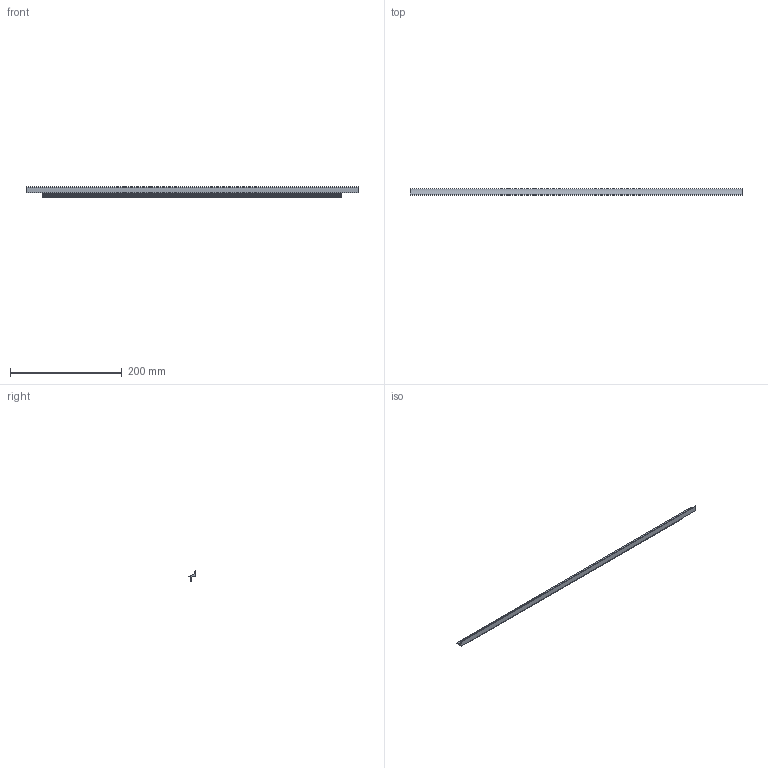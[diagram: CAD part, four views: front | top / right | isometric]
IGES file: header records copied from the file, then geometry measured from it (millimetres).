
Start section: Data from Parasolid IGES Translator 20.0.26, Copyright(c) 2006 Siemens P LM Software. All Rights Reserved.
Global section: file name: 9208093.igs; native system: By Siemens PLM Incorporated; preprocessor: XPlus GENERIC/IGES 20.0.26; author: Noname; organization: Noname; date: 20230313.143417; units: millimetre
Bounding box: 595 x 12.49 x 18 mm (x, y, z)
Surface area: 34429.3 mm2 (no closed solid volume)
Topology: 0 solids, 0 shells, 29 faces, 156 edges, 156 vertices
Faces by surface type: extrusion 25, revolution 4
